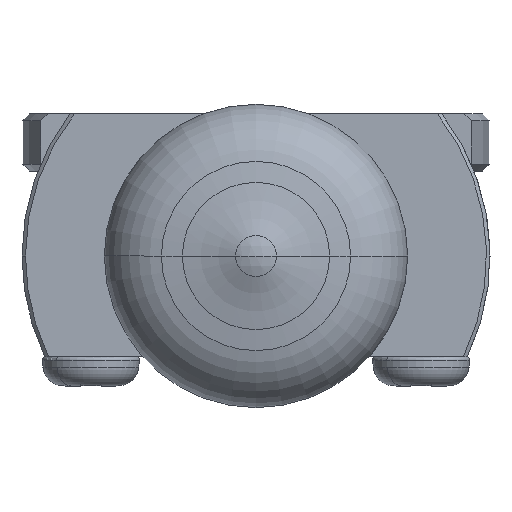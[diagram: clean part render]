
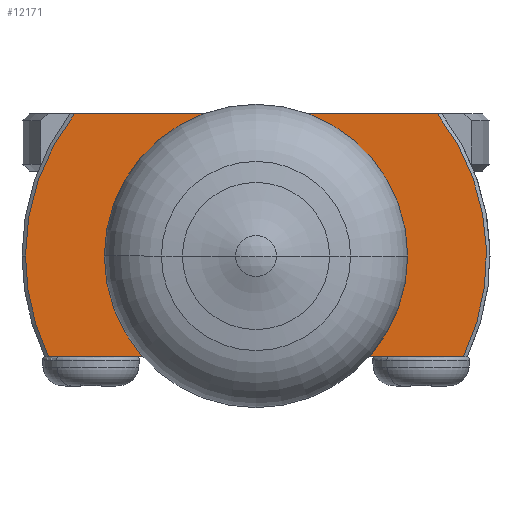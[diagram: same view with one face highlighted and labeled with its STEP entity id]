
A CAD part, left-side view. The second image highlights one B-rep face of the part: STEP entity #12171.
In plain terms, the highlighted planar face has unit normal (-1, 0, 0).
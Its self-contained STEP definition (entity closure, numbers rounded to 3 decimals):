
#116 = ORIENTED_EDGE ( 'NONE', *, *, #2216, .F. ) ;
#1712 = FACE_BOUND ( 'NONE', #5801, .T. ) ;
#2034 = AXIS2_PLACEMENT_3D ( 'NONE', #11137, #6364, #10071 ) ;
#2193 = DIRECTION ( 'NONE',  ( 0., 0., 1. ) ) ;
#2216 = EDGE_CURVE ( 'NONE', #6897, #5031, #10383, .T. ) ;
#2244 = CARTESIAN_POINT ( 'NONE',  ( -2.12, 0., 0. ) ) ;
#2318 = VERTEX_POINT ( 'NONE', #5022 ) ;
#2559 = ORIENTED_EDGE ( 'NONE', *, *, #10940, .F. ) ;
#3193 = VERTEX_POINT ( 'NONE', #12143 ) ;
#3773 = AXIS2_PLACEMENT_3D ( 'NONE', #9789, #14782, #6351 ) ;
#4075 = AXIS2_PLACEMENT_3D ( 'NONE', #12675, #13919, #12824 ) ;
#4138 = AXIS2_PLACEMENT_3D ( 'NONE', #2244, #10854, #2193 ) ;
#4154 = DIRECTION ( 'NONE',  ( 0., 0., 1. ) ) ;
#4511 = CARTESIAN_POINT ( 'NONE',  ( -2.12, 0., 2.85 ) ) ;
#5017 = CARTESIAN_POINT ( 'NONE',  ( -2.12, -0.289, 4.1 ) ) ;
#5022 = CARTESIAN_POINT ( 'NONE',  ( -2.12, 0., -2.85 ) ) ;
#5031 = VERTEX_POINT ( 'NONE', #14070 ) ;
#5461 = LINE ( 'NONE', #5017, #14340 ) ;
#5801 = EDGE_LOOP ( 'NONE', ( #10109, #6236 ) ) ;
#6236 = ORIENTED_EDGE ( 'NONE', *, *, #15348, .F. ) ;
#6351 = DIRECTION ( 'NONE',  ( 0., 1., 0. ) ) ;
#6364 = DIRECTION ( 'NONE',  ( 1., 0., 0. ) ) ;
#6897 = VERTEX_POINT ( 'NONE', #10497 ) ;
#6974 = CIRCLE ( 'NONE', #3773, 6.65 ) ;
#7046 = LINE ( 'NONE', #15646, #10849 ) ;
#7330 = EDGE_CURVE ( 'NONE', #9990, #2318, #9729, .T. ) ;
#8189 = AXIS2_PLACEMENT_3D ( 'NONE', #13360, #12090, #12244 ) ;
#8769 = EDGE_CURVE ( 'NONE', #12421, #5031, #7046, .T. ) ;
#9032 = CARTESIAN_POINT ( 'NONE',  ( -2.12, 0., 0. ) ) ;
#9043 = ORIENTED_EDGE ( 'NONE', *, *, #8769, .T. ) ;
#9183 = CIRCLE ( 'NONE', #4138, 2.85 ) ;
#9532 = DIRECTION ( 'NONE',  ( 0., -1., 0. ) ) ;
#9729 = CIRCLE ( 'NONE', #14433, 2.85 ) ;
#9789 = CARTESIAN_POINT ( 'NONE',  ( -2.12, 0., 0. ) ) ;
#9990 = VERTEX_POINT ( 'NONE', #4511 ) ;
#10071 = DIRECTION ( 'NONE',  ( 0., 1., 0. ) ) ;
#10109 = ORIENTED_EDGE ( 'NONE', *, *, #7330, .F. ) ;
#10147 = CARTESIAN_POINT ( 'NONE',  ( -2.12, 6.65, 0. ) ) ;
#10347 = EDGE_LOOP ( 'NONE', ( #13747, #9043, #116, #10433, #2559 ) ) ;
#10383 = CIRCLE ( 'NONE', #8189, 6.65 ) ;
#10433 = ORIENTED_EDGE ( 'NONE', *, *, #14084, .T. ) ;
#10497 = CARTESIAN_POINT ( 'NONE',  ( -2.12, -5.236, 4.1 ) ) ;
#10849 = VECTOR ( 'NONE', #9532, 1000. ) ;
#10854 = DIRECTION ( 'NONE',  ( -1., 0., 0. ) ) ;
#10940 = EDGE_CURVE ( 'NONE', #13465, #3193, #14395, .T. ) ;
#11137 = CARTESIAN_POINT ( 'NONE',  ( -2.12, 0., 0. ) ) ;
#11490 = DIRECTION ( 'NONE',  ( -1., 0., 0. ) ) ;
#11541 = FACE_OUTER_BOUND ( 'NONE', #10347, .T. ) ;
#12090 = DIRECTION ( 'NONE',  ( 1., 0., 0. ) ) ;
#12143 = CARTESIAN_POINT ( 'NONE',  ( -2.12, 5.236, 4.1 ) ) ;
#12171 = ADVANCED_FACE ( 'NONE', ( #11541, #1712 ), #13970, .T. ) ;
#12244 = DIRECTION ( 'NONE',  ( 0., 1., 0. ) ) ;
#12421 = VERTEX_POINT ( 'NONE', #13028 ) ;
#12636 = EDGE_CURVE ( 'NONE', #12421, #13465, #6974, .T. ) ;
#12675 = CARTESIAN_POINT ( 'NONE',  ( -2.12, 4.785, 0. ) ) ;
#12824 = DIRECTION ( 'NONE',  ( 0., 0.707, 0.707 ) ) ;
#13028 = CARTESIAN_POINT ( 'NONE',  ( -2.12, 5.984, -2.9 ) ) ;
#13360 = CARTESIAN_POINT ( 'NONE',  ( -2.12, 0., 0. ) ) ;
#13454 = DIRECTION ( 'NONE',  ( 0., 1., 0. ) ) ;
#13465 = VERTEX_POINT ( 'NONE', #10147 ) ;
#13747 = ORIENTED_EDGE ( 'NONE', *, *, #12636, .F. ) ;
#13919 = DIRECTION ( 'NONE',  ( -1., 0., 0. ) ) ;
#13970 = PLANE ( 'NONE',  #4075 ) ;
#14070 = CARTESIAN_POINT ( 'NONE',  ( -2.12, -5.984, -2.9 ) ) ;
#14084 = EDGE_CURVE ( 'NONE', #6897, #3193, #5461, .T. ) ;
#14340 = VECTOR ( 'NONE', #13454, 1000. ) ;
#14395 = CIRCLE ( 'NONE', #2034, 6.65 ) ;
#14433 = AXIS2_PLACEMENT_3D ( 'NONE', #9032, #11490, #4154 ) ;
#14782 = DIRECTION ( 'NONE',  ( 1., 0., 0. ) ) ;
#15348 = EDGE_CURVE ( 'NONE', #2318, #9990, #9183, .T. ) ;
#15646 = CARTESIAN_POINT ( 'NONE',  ( -2.12, 5.44, -2.9 ) ) ;
